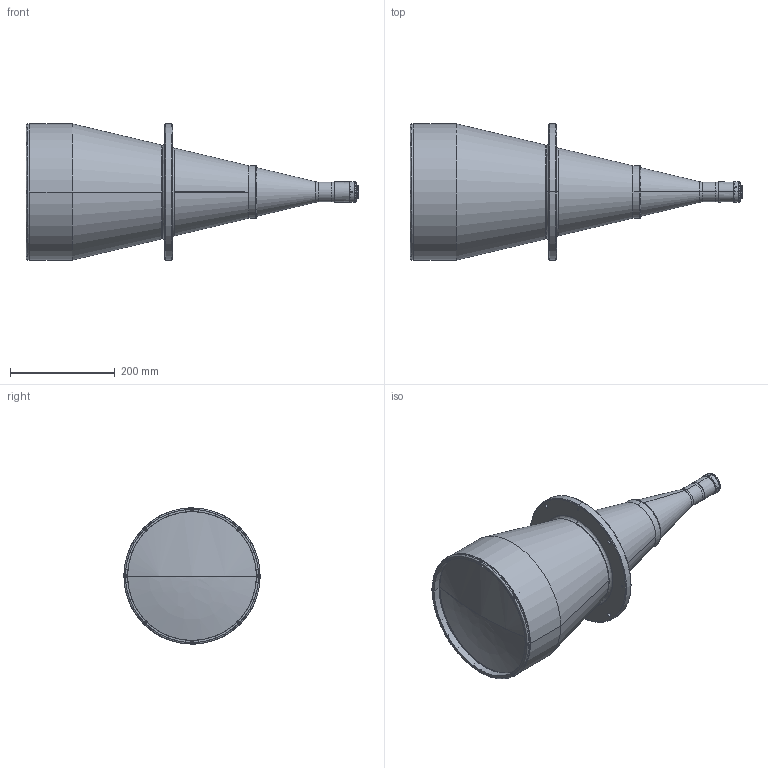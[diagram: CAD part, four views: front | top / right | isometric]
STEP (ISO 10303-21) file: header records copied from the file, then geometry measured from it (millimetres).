
FILE_DESCRIPTION(('LS-TCL-0253'),'2;1');
FILE_NAME('LS-TCL-0253.stp','2026-10-15T21:55:04',('LumaSpec Vision'),('LumaSpec Vision'),'LumaSpec Vision','LumaSpec Vision','');
FILE_SCHEMA(('AUTOMOTIVE_DESIGN { 1 0 10303 214 1 1 1 1 }'));
Length unit declared in the file: millimetre
Products named in the file (200): LumaSpec Vision
Assembly tree (199 placements, depth 2):
  LumaSpec Vision
    LumaSpec Vision
    LumaSpec Vision
    LumaSpec Vision
    LumaSpec Vision
    LumaSpec Vision
    LumaSpec Vision
    LumaSpec Vision
    LumaSpec Vision
    LumaSpec Vision
    LumaSpec Vision
    LumaSpec Vision
    LumaSpec Vision
    LumaSpec Vision
    LumaSpec Vision
    LumaSpec Vision
    LumaSpec Vision
    LumaSpec Vision
    LumaSpec Vision
    LumaSpec Vision
    LumaSpec Vision
    LumaSpec Vision
    LumaSpec Vision
    LumaSpec Vision
    LumaSpec Vision
    LumaSpec Vision
    LumaSpec Vision
    LumaSpec Vision
    LumaSpec Vision
    LumaSpec Vision
    LumaSpec Vision
    LumaSpec Vision
    LumaSpec Vision
    LumaSpec Vision
    LumaSpec Vision
    LumaSpec Vision
    LumaSpec Vision
    LumaSpec Vision
    LumaSpec Vision
    LumaSpec Vision
    LumaSpec Vision
    LumaSpec Vision
    LumaSpec Vision
    LumaSpec Vision
    LumaSpec Vision
    LumaSpec Vision
    LumaSpec Vision
    LumaSpec Vision
    LumaSpec Vision
    LumaSpec Vision
    LumaSpec Vision
    LumaSpec Vision
    LumaSpec Vision
    LumaSpec Vision
    LumaSpec Vision
    LumaSpec Vision
    LumaSpec Vision
    LumaSpec Vision
    LumaSpec Vision
    LumaSpec Vision
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Bounding box: 633.82 x 260 x 260 mm (x, y, z)
Surface area: 455059.9 mm2 (no closed solid volume)
Topology: 0 solids, 199 shells, 199 faces, 3910 edges, 3905 vertices
Faces by surface type: bspline 110, revolution 89
Entity records: 64807 total; most frequent: CARTESIAN_POINT 26612, B_SPLINE_CURVE_WITH_KNOTS 7004, ORIENTED_EDGE 3905, EDGE_CURVE 3905, VERTEX_POINT 3905, SURFACE_CURVE 3905, PCURVE 3905, DEFINITIONAL_REPRESENTATION 3905
